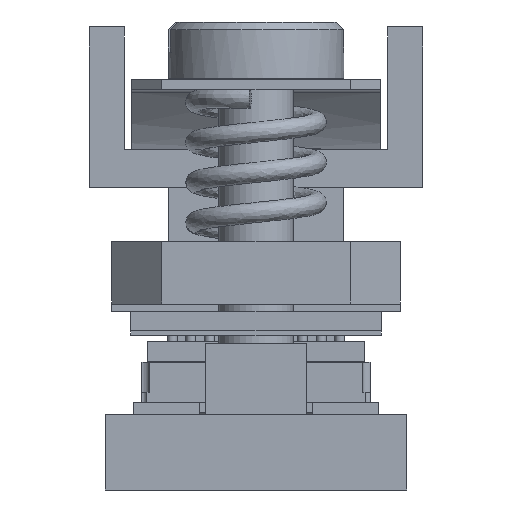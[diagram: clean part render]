
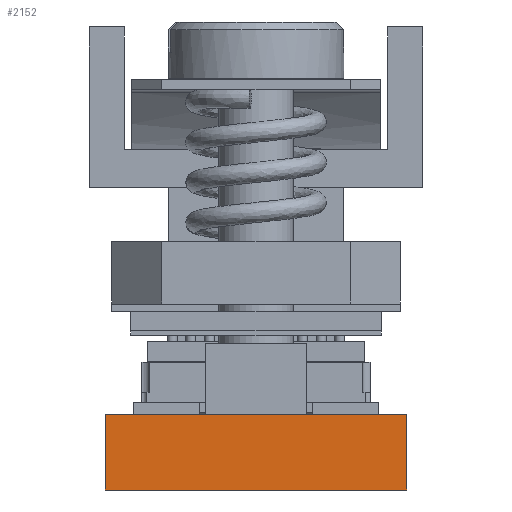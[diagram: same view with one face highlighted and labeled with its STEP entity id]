
A CAD part, left-side view. The second image highlights one B-rep face of the part: STEP entity #2152.
In plain terms, the highlighted planar face has unit normal (-1, 0, 0).
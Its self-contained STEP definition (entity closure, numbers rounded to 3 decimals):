
#1285=CARTESIAN_POINT('',(-20.,-6.,3.));
#1286=VERTEX_POINT('',#1285);
#1287=CARTESIAN_POINT('',(-20.0,6.,3.));
#1288=VERTEX_POINT('',#1287);
#1289=CARTESIAN_POINT('',(-20.,-6.,3.));
#1290=DIRECTION('',(0.0,1.0,0.0));
#1291=VECTOR('',#1290,12.0);
#1292=LINE('',#1289,#1291);
#1293=EDGE_CURVE('',#1286,#1288,#1292,.T.);
#2122=CARTESIAN_POINT('',(-20.,-6.,0.0));
#2123=DIRECTION('',(-1.0,0.0,0.0));
#2124=DIRECTION('',(0.0,0.0,1.0));
#2125=AXIS2_PLACEMENT_3D('',#2122,#2123,#2124);
#2126=PLANE('',#2125);
#2127=ORIENTED_EDGE('',*,*,#1293,.T.);
#2128=CARTESIAN_POINT('',(-20.0,6.,0.0));
#2129=VERTEX_POINT('',#2128);
#2130=CARTESIAN_POINT('',(-20.0,6.,0.0));
#2131=DIRECTION('',(0.0,0.0,1.0));
#2132=VECTOR('',#2131,3.);
#2133=LINE('',#2130,#2132);
#2134=EDGE_CURVE('',#2129,#1288,#2133,.T.);
#2135=ORIENTED_EDGE('',*,*,#2134,.F.);
#2136=CARTESIAN_POINT('',(-20.,-6.,0.0));
#2137=VERTEX_POINT('',#2136);
#2138=CARTESIAN_POINT('',(-20.0,6.,0.0));
#2139=DIRECTION('',(0.0,-1.0,0.0));
#2140=VECTOR('',#2139,12.0);
#2141=LINE('',#2138,#2140);
#2142=EDGE_CURVE('',#2129,#2137,#2141,.T.);
#2143=ORIENTED_EDGE('',*,*,#2142,.T.);
#2144=CARTESIAN_POINT('',(-20.,-6.,0.0));
#2145=DIRECTION('',(0.0,0.0,1.0));
#2146=VECTOR('',#2145,3.);
#2147=LINE('',#2144,#2146);
#2148=EDGE_CURVE('',#2137,#1286,#2147,.T.);
#2149=ORIENTED_EDGE('',*,*,#2148,.T.);
#2150=EDGE_LOOP('',(#2127,#2135,#2143,#2149));
#2151=FACE_OUTER_BOUND('',#2150,.T.);
#2152=ADVANCED_FACE('',(#2151),#2126,.T.);
